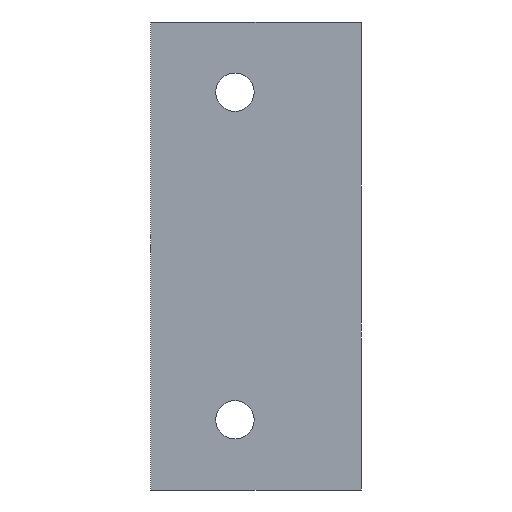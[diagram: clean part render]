
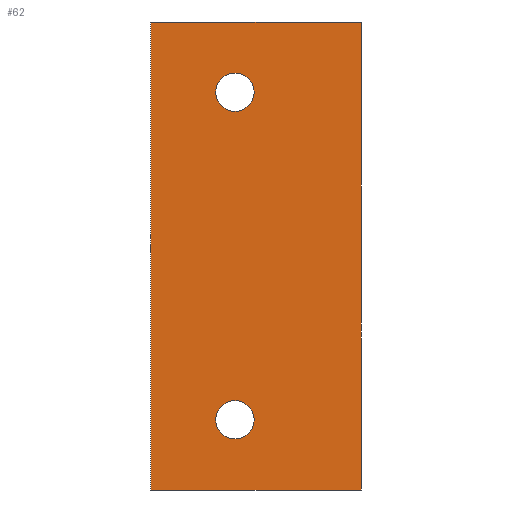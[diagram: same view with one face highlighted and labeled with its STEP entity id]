
A CAD part, front view. The second image highlights one B-rep face of the part: STEP entity #62.
In plain terms, the highlighted planar face has unit normal (0, -1, 0).
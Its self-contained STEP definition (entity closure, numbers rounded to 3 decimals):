
#62=ADVANCED_FACE('',(#143,#144,#145),#80,.F.);
#80=PLANE('',#347);
#97=LINE('',#483,#123);
#99=LINE('',#491,#125);
#100=LINE('',#493,#126);
#101=LINE('',#495,#127);
#123=VECTOR('',#388,1.);
#125=VECTOR('',#396,1.);
#126=VECTOR('',#397,1.);
#127=VECTOR('',#398,1.);
#143=FACE_BOUND('',#162,.T.);
#144=FACE_BOUND('',#163,.T.);
#145=FACE_BOUND('',#164,.T.);
#162=EDGE_LOOP('',(#200));
#163=EDGE_LOOP('',(#201));
#164=EDGE_LOOP('',(#202,#203,#204,#205));
#200=ORIENTED_EDGE('',*,*,#303,.T.);
#201=ORIENTED_EDGE('',*,*,#304,.T.);
#202=ORIENTED_EDGE('',*,*,#305,.T.);
#203=ORIENTED_EDGE('',*,*,#306,.F.);
#204=ORIENTED_EDGE('',*,*,#307,.F.);
#205=ORIENTED_EDGE('',*,*,#301,.T.);
#272=VERTEX_POINT('',#482);
#273=VERTEX_POINT('',#484);
#274=VERTEX_POINT('',#488);
#275=VERTEX_POINT('',#490);
#276=VERTEX_POINT('',#492);
#277=VERTEX_POINT('',#494);
#301=EDGE_CURVE('',#273,#272,#97,.T.);
#303=EDGE_CURVE('',#274,#274,#330,.T.);
#304=EDGE_CURVE('',#275,#275,#331,.T.);
#305=EDGE_CURVE('',#272,#276,#99,.T.);
#306=EDGE_CURVE('',#277,#276,#100,.T.);
#307=EDGE_CURVE('',#273,#277,#101,.T.);
#330=CIRCLE('',#345,4.1);
#331=CIRCLE('',#346,4.1);
#345=AXIS2_PLACEMENT_3D('',#487,#392,#393);
#346=AXIS2_PLACEMENT_3D('',#489,#394,#395);
#347=AXIS2_PLACEMENT_3D('',#496,#399,#400);
#388=DIRECTION('',(0.,0.,-1.));
#392=DIRECTION('',(0.,1.,0.));
#393=DIRECTION('',(0.,0.,1.));
#394=DIRECTION('',(0.,1.,0.));
#395=DIRECTION('',(0.,0.,1.));
#396=DIRECTION('',(1.,0.,0.));
#397=DIRECTION('',(0.,0.,-1.));
#398=DIRECTION('',(1.,0.,0.));
#399=DIRECTION('',(0.,1.,0.));
#400=DIRECTION('',(0.,0.,1.));
#482=CARTESIAN_POINT('',(-27.2,-27.,-50.));
#483=CARTESIAN_POINT('',(-27.2,-27.,50.));
#484=CARTESIAN_POINT('',(-27.2,-27.,50.));
#487=CARTESIAN_POINT('',(-9.2,-27.,-35.));
#488=CARTESIAN_POINT('',(-9.2,-27.,-30.9));
#489=CARTESIAN_POINT('',(-9.2,-27.,35.));
#490=CARTESIAN_POINT('',(-9.2,-27.,39.1));
#491=CARTESIAN_POINT('',(16.5,-27.,-50.));
#492=CARTESIAN_POINT('',(17.8,-27.,-50.));
#493=CARTESIAN_POINT('',(17.8,-27.,50.));
#494=CARTESIAN_POINT('',(17.8,-27.,50.));
#495=CARTESIAN_POINT('',(-27.2,-27.,50.));
#496=CARTESIAN_POINT('',(16.5,-27.,50.));
